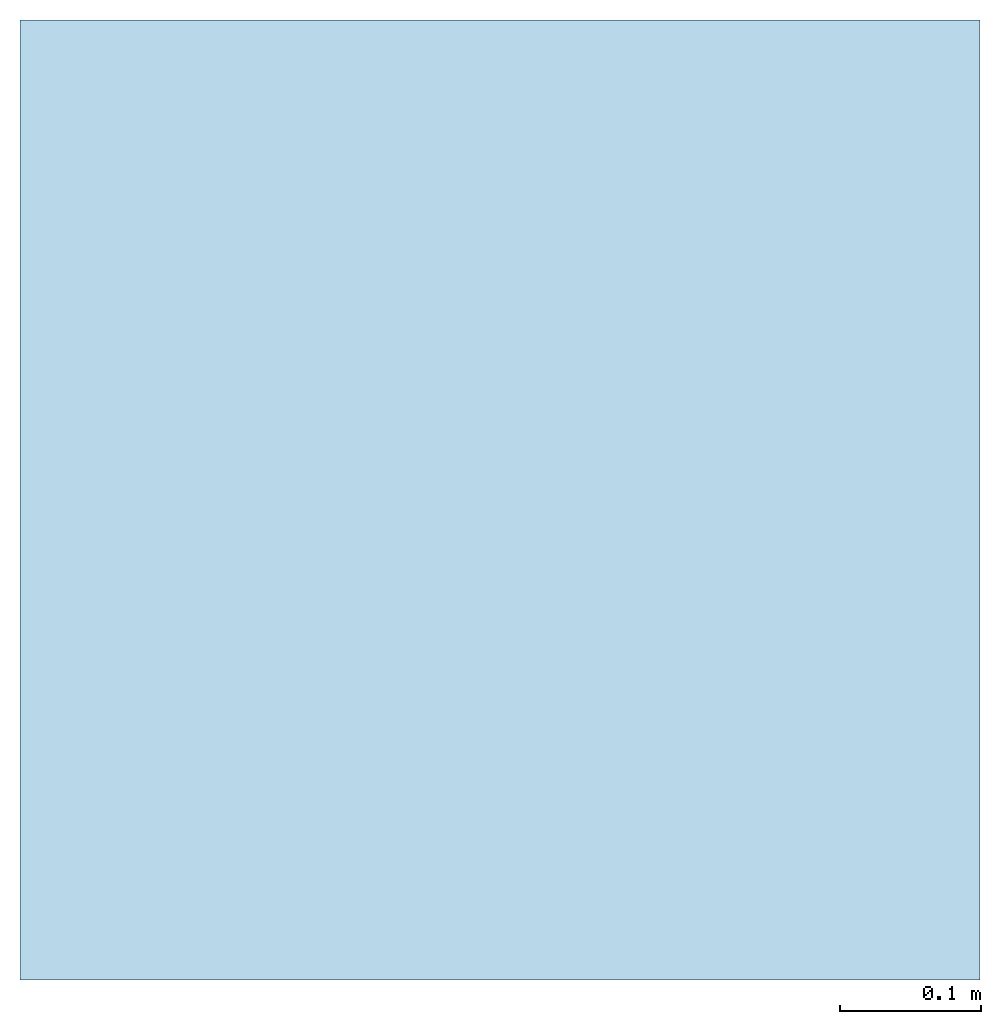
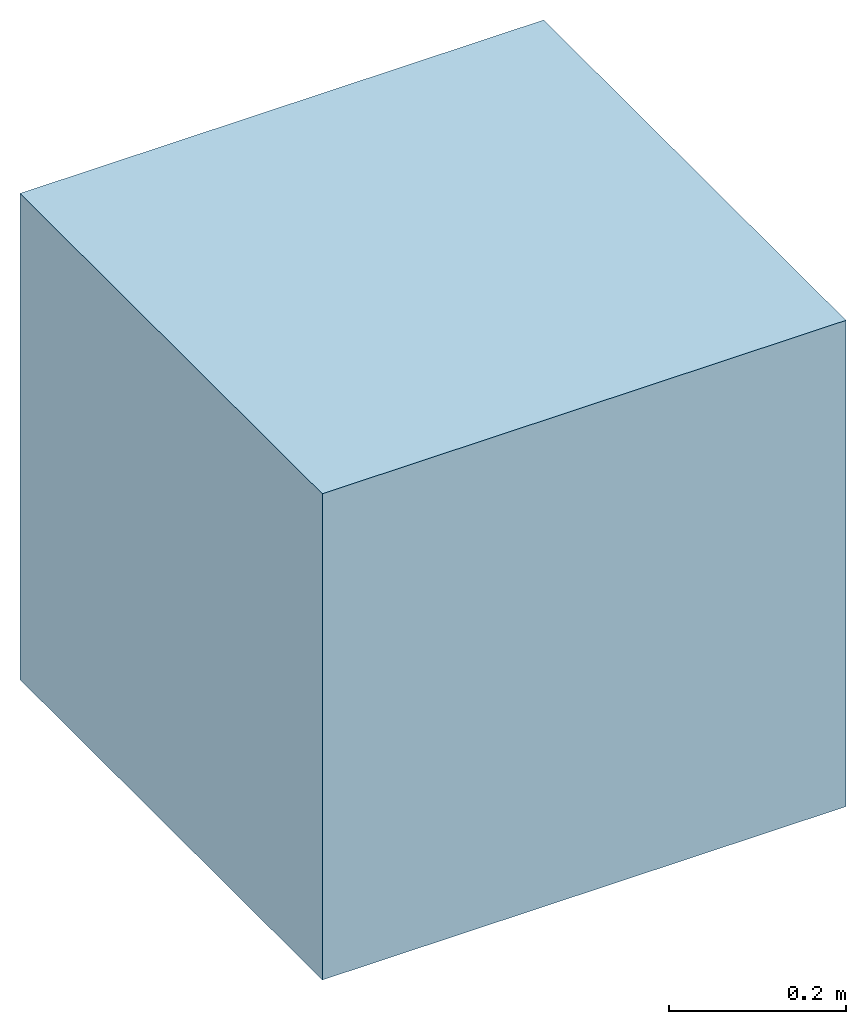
# One storey: 1 slab.
"""IFC4 building model written with IfcOpenShell, lengths in metres."""

from ifc_helpers import new_model, entity, si_unit, converted_unit, direction, frame, frame_2d, origin, origin_2d_with_axis, place, context, subcontext, project, spatial, rectangle, extrude, material, type_object, element, save


model = new_model("IFC4")

# Units and contexts
model_context = context("Model", 3, precision=1e-05, world=origin(), true_north=direction((6.123031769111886e-17, 1.0)))
body_context = subcontext(model_context, "Body", "Model", "MODEL_VIEW")
ifc_project = project(units=[si_unit("LENGTHUNIT", "METRE"), converted_unit("PLANEANGLEUNIT", "DEGREE", entity("IfcPlaneAngleMeasure", 0.017453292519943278), si_unit("PLANEANGLEUNIT", "RADIAN"), dimensions=[0, 0, 0, 0, 0, 0, 0]), si_unit("AREAUNIT", "SQUARE_METRE")], contexts=[model_context])

# Site, building, storey
site_placement = place(None, origin())
site = spatial("IfcSite", under=ifc_project, at=site_placement, Name="Default", CompositionType="ELEMENT")
building_placement = place(site_placement, origin())
building = spatial("IfcBuilding", under=site, at=building_placement, CompositionType="ELEMENT")
storey_placement = place(building_placement, origin())
storey = spatial("IfcBuildingStorey", under=building, at=storey_placement, Name="DB_Bezugshoehe_max_Bahnsteigkante", CompositionType="ELEMENT", Elevation=0.0)

# Slab
ifc_material = material(Name="DB_Magerbeton", Category="DB_Beton")
slab_type = type_object("IfcSlabType", Name="DB_BSK_76_Fundament_Ecke_aussen:DB_BSK_76_Fundament_Ecke_aussen", PredefinedType="BASESLAB", material=ifc_material)
slab_placement = place(storey_placement, origin())
element("IfcSlab", 1, at=slab_placement, inside=storey, type_object=slab_type, Name="DB_BSK_76_Fundament_Ecke_aussen:DB_BSK_76_Fundament_Ecke_aussen:6252", ObjectType="DB_BSK_76_Fundament_Ecke_aussen:DB_BSK_76_Fundament_Ecke_aussen", PredefinedType="BASESLAB", context=body_context, shape_type="SweptSolid", body=[
    extrude(rectangle(XDim=0.6825000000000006, YDim=0.6824999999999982, at=frame_2d((-5.551115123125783e-17, 2.7755575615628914e-17), x_axis=(1.0, 0.0))), frame((0.23063990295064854, 0.23063990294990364, -1.6549999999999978), z_axis=(0.0, 0.0, 1.0), x_axis=(-1.0, 0.0, 0.0)), (0.0, 0.0, 1.0), 0.1199999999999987),
    extrude(rectangle(XDim=0.6825000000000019, YDim=0.682499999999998, at=origin_2d_with_axis()), frame((0.23063990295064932, 0.2306399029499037, -1.5349999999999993), z_axis=(0.0, 0.0, 1.0), x_axis=(-1.0, 0.0, 0.0)), (0.0, 0.0, 1.0), 0.55),
])

save(model, "model.ifc")
